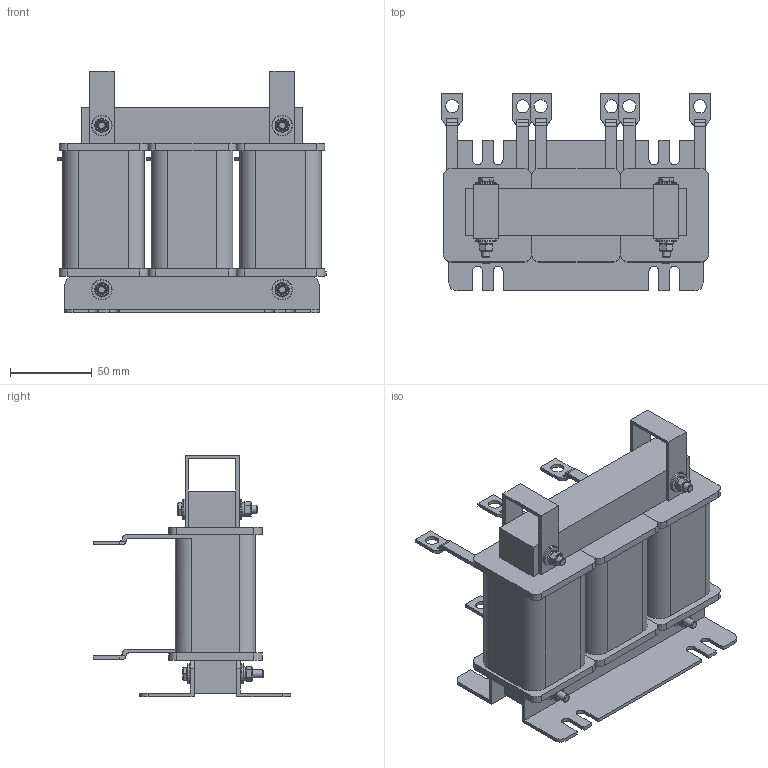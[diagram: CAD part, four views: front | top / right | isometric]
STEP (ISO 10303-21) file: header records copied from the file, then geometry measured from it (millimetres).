
FILE_DESCRIPTION(('STEP AP203'), '1');
FILE_NAME('栖闉罻 _ ISF-15_35-4', '', ('UNSPECIFIED'), ('UNSPECIFIED'), 'ASCON STEP Converter 1.6', 'ASCON Math Kernel', '');
FILE_SCHEMA(('CONFIG_CONTROL_DESIGN'));
Length unit declared in the file: millimetre
Products named in the file (12): ISF-15_35-4
Assembly tree (43 placements, depth 2):
  ISF-15_35-4
    ISF-15_35-4
    ISF-15_35-4  x2
    ISF-15_35-4  x6
    ISF-15_35-4  x3
    ISF-15_35-4
    ISF-15_35-4  x2
    ISF-15_35-4  x8
    ISF-15_35-4  x8
    ISF-15_35-4  x4
    ISF-15_35-4  x4
    ISF-15_35-4  x4
Bounding box: 164 x 120.5 x 147.2 mm (x, y, z)
Volume: 800139.3 mm3; surface area: 183379.5 mm2
Topology: 43 solids, 43 shells, 546 faces, 1248 edges, 792 vertices
Faces by surface type: plane 392, cylinder 134, cone 12, torus 8
Full cylindrical faces by diameter (mm): 5 x36, 8 x6, 12 x8, 12.5 x8
Entity records: 6404 total; most frequent: CARTESIAN_POINT 1094, DIRECTION 872, ORIENTED_EDGE 758, EDGE_CURVE 379, AXIS2_PLACEMENT_3D 295, LINE 282, VECTOR 282, VERTEX_POINT 255
